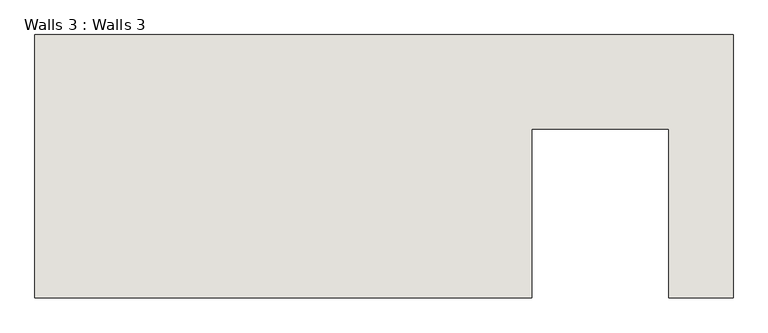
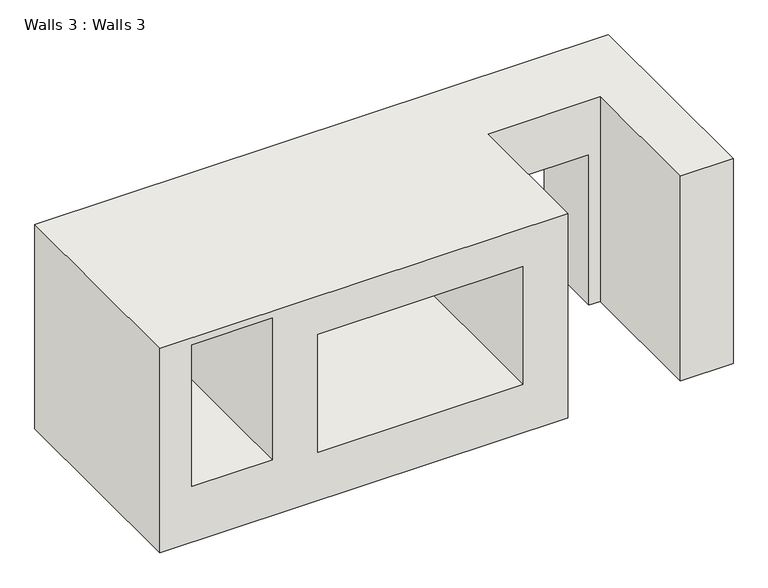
"""IFC4 building model written with IfcOpenShell, lengths in millimetres: wall geometry, Walls 3 : Walls 3."""

import ifcopenshell
import ifcopenshell.guid

model = None  # the IFC model being written
_history = None  # IfcOwnerHistory: only IFC2X3 demands one
_inside = {}  # id of a spatial element -> (the spatial element, [elements in it])
_under = {}  # id of a project, library or spatial element -> (it, [spatial elements below it])
_declared = {}  # id of a project -> (the project, [libraries it declares])
_typed = {}  # id of a type object -> (the type object, [elements of that type])
_made_of = {}  # id of a material, layer set ... -> (it, [elements and type objects made of it])


def new_model(schema):
    """Start an empty IFC model of exactly this schema.

    Asked for "IFC4X3", IfcOpenShell would pick the latest addendum, in which some entities
    have other attributes; the version numbers below select the first issue.
    IFC2X3 requires an IfcOwnerHistory on every rooted entity: one is made here for all.
    """
    global model, _history
    if schema == "IFC4X3":
        model = ifcopenshell.file(schema_version=(4, 3, 0, 0))
    else:
        model = ifcopenshell.file(schema=schema)
    _inside.clear()
    _under.clear()
    _declared.clear()
    _typed.clear()
    _made_of.clear()
    _history = None
    if model.schema == "IFC2X3":
        org = make("IfcOrganization", Name="unknown")
        user = make(
            "IfcPersonAndOrganization",
            ThePerson=make("IfcPerson", FamilyName="unknown"),
            TheOrganization=org,
        )
        app = make(
            "IfcApplication",
            ApplicationDeveloper=org,
            Version="unknown",
            ApplicationFullName="unknown",
            ApplicationIdentifier="unknown",
        )
        _history = make(
            "IfcOwnerHistory",
            OwningUser=user,
            OwningApplication=app,
            ChangeAction="ADDED",
            CreationDate=0,
        )
    return model


def make(cls, **values):
    """One entity of the class cls with the attributes given. An attribute that is None is left unset."""
    return model.create_entity(
        cls, **{name: value for name, value in values.items() if value is not None}
    )


def rooted(cls, **values):
    """An entity with a GlobalId (a new one), such as an element, a storey or a relation."""
    return make(cls, GlobalId=ifcopenshell.guid.new(), OwnerHistory=_history, **values)


def si_unit(unit_type, name, prefix=None):
    """IfcSIUnit, for example si_unit("LENGTHUNIT", "METRE", prefix="MILLI")."""
    return make("IfcSIUnit", UnitType=unit_type, Prefix=prefix, Name=name)


def assignment(units):
    """IfcUnitAssignment: the units of a project."""
    return None if units is None else make("IfcUnitAssignment", Units=units)


def point(xyz):
    """IfcCartesianPoint."""
    return None if xyz is None else make("IfcCartesianPoint", Coordinates=xyz)


def direction(xyz):
    """IfcDirection."""
    return None if xyz is None else make("IfcDirection", DirectionRatios=xyz)


def frame(location, z_axis=None, x_axis=None):
    """IfcAxis2Placement3D, a coordinate frame: its origin and axes. An axis left out is left unset."""
    return make(
        "IfcAxis2Placement3D",
        Location=point(location),
        Axis=direction(z_axis),
        RefDirection=direction(x_axis),
    )


def origin():
    """The frame at (0, 0, 0) with its axes left unset."""
    return frame((0.0, 0.0, 0.0))


def place(relative_to, where):
    """IfcLocalPlacement: puts the frame where relative to a parent placement (None: the world)."""
    return make(
        "IfcLocalPlacement", PlacementRelTo=relative_to, RelativePlacement=where
    )


def context(
    kind, dimensions, precision=None, world=None, true_north=None, identifier=None
):
    """IfcGeometricRepresentationContext, for example the 3D "Model" context."""
    return make(
        "IfcGeometricRepresentationContext",
        ContextIdentifier=identifier,
        ContextType=kind,
        CoordinateSpaceDimension=dimensions,
        Precision=precision,
        WorldCoordinateSystem=world,
        TrueNorth=true_north,
    )


def project(units=None, contexts=None):
    """IfcProject with its units and contexts."""
    return rooted(
        "IfcProject",
        Name="project",
        RepresentationContexts=contexts,
        UnitsInContext=assignment(units),
    )


def spatial(cls, under=None, at=None, **own):
    """A site, building, storey or space (cls), placed at a placement, below another one or the project."""
    s = rooted(cls, ObjectPlacement=at, **own)
    if under is not None:
        _under.setdefault(under.id(), (under, []))[1].append(s)
    return s


def faces_of(points, faces, orient=None, outer=None):
    """IfcFace entities. A face is a list of loops; a loop is a list of indices into points, from 0.

    orient and outer hold one flag for each loop. By default every Orientation is true, the
    first loop of a face is its IfcFaceOuterBound and the others are IfcFaceBound.
    """
    made = []
    for i, loops in enumerate(faces):
        bounds = []
        for j, loop in enumerate(loops):
            is_outer = j == 0 if outer is None else outer[i][j]
            bounds.append(
                make(
                    "IfcFaceOuterBound" if is_outer else "IfcFaceBound",
                    Bound=make("IfcPolyLoop", Polygon=[points[k] for k in loop]),
                    Orientation=True if orient is None else orient[i][j],
                )
            )
        made.append(make("IfcFace", Bounds=bounds))
    return made


def faceted_brep(points, faces, orient=None, outer=None, voids=None):
    """IfcFacetedBrep: a solid bounded by flat faces; with voids (closed shells), ...WithVoids."""
    shared = [point(p) for p in points]
    hull = make("IfcClosedShell", CfsFaces=faces_of(shared, faces, orient, outer))
    if voids is None:
        return make("IfcFacetedBrep", Outer=hull)
    return make(
        "IfcFacetedBrepWithVoids",
        Outer=hull,
        Voids=[
            make(cls, CfsFaces=faces_of(shared, fs, o, b)) for cls, fs, o, b in voids
        ],
    )


def shape(context_of_items, identifier, shape_type, items):
    """IfcShapeRepresentation: the items that make up one representation, for example the "Body"."""
    return make(
        "IfcShapeRepresentation",
        ContextOfItems=context_of_items,
        RepresentationIdentifier=identifier,
        RepresentationType=shape_type,
        Items=items,
    )


def source(mapping_origin, context_of_items, identifier, shape_type, items):
    """IfcRepresentationMap: a shape defined once, which mapped items show again and again."""
    return make(
        "IfcRepresentationMap",
        MappingOrigin=mapping_origin,
        MappedRepresentation=shape(context_of_items, identifier, shape_type, items),
    )


def transform(
    local_origin,
    x_axis=None,
    y_axis=None,
    z_axis=None,
    scale=None,
    scale2=None,
    scale3=None,
    uniform=True,
):
    """IfcCartesianTransformationOperator3D, or its non-uniform kind. x_axis, y_axis, z_axis: its Axis1, 2, 3."""
    if uniform:
        return make(
            "IfcCartesianTransformationOperator3D",
            Axis1=direction(x_axis),
            Axis2=direction(y_axis),
            LocalOrigin=point(local_origin),
            Scale=scale,
            Axis3=direction(z_axis),
        )
    return make(
        "IfcCartesianTransformationOperator3DnonUniform",
        Axis1=direction(x_axis),
        Axis2=direction(y_axis),
        LocalOrigin=point(local_origin),
        Scale=scale,
        Axis3=direction(z_axis),
        Scale2=scale2,
        Scale3=scale3,
    )


def mapped(mapping_source, mapping_target):
    """IfcMappedItem: shows the shape of a source again, moved by a transform."""
    return make(
        "IfcMappedItem", MappingSource=mapping_source, MappingTarget=mapping_target
    )


def made_of(thing, what):
    """Note that an element or type object is made of a material, layer set ...; save() writes the relation."""
    if what is not None:
        _made_of.setdefault(what.id(), (what, []))[1].append(thing)
    return thing


def element(
    cls,
    number,
    at=None,
    inside=None,
    cuts=None,
    type_object=None,
    material=None,
    context=None,
    identifier="Body",
    shape_type=None,
    held_by="IfcProductDefinitionShape",
    body=None,
    shapes=None,
    **own,
):
    """One element of the class cls, such as IfcWall. Its Tag is "e" and its number.

    at: its placement. inside: the storey or other place that contains it. cuts: it is an
    opening in that element (IfcRelVoidsElement). A single representation is given by context,
    identifier, shape_type and body (its items); several are given by shapes. held_by: the class
    of the entity that holds the representations. save() writes the other relations.
    """
    e = rooted(cls, Tag="e%d" % number, ObjectPlacement=at, **own)
    if body is not None:
        shapes = [shape(context, identifier, shape_type, body)]
    if shapes is not None:
        e.Representation = make(held_by, Representations=shapes)
    if inside is not None:
        _inside.setdefault(inside.id(), (inside, []))[1].append(e)
    if cuts is not None:
        rooted(
            "IfcRelVoidsElement", RelatingBuildingElement=cuts, RelatedOpeningElement=e
        )
    if type_object is not None:
        _typed.setdefault(type_object.id(), (type_object, []))[1].append(e)
    return made_of(e, material)


def aggregate(whole, parts):
    """IfcRelAggregates: a whole, such as a stair, and the parts it consists of."""
    return rooted("IfcRelAggregates", RelatingObject=whole, RelatedObjects=parts)


def save(model, path):
    """Write the relations noted so far, then the file.

    IfcRelAggregates (storeys below a building ...), IfcRelContainedInSpatialStructure (elements
    in a storey), IfcRelDefinesByType, IfcRelAssociatesMaterial and IfcRelDeclares: one each for
    every whole, place, type object, material and project.
    """
    for whole, parts in _under.values():
        aggregate(whole, parts)
    for where, things in _inside.values():
        rooted(
            "IfcRelContainedInSpatialStructure",
            RelatedElements=things,
            RelatingStructure=where,
        )
    for kind, things in _typed.values():
        rooted("IfcRelDefinesByType", RelatedObjects=things, RelatingType=kind)
    for what, things in _made_of.values():
        rooted("IfcRelAssociatesMaterial", RelatedObjects=things, RelatingMaterial=what)
    for by, libraries in _declared.values():
        rooted("IfcRelDeclares", RelatingContext=by, RelatedDefinitions=libraries)
    model.write(path)


def walls_3_walls_3_bad49033(model_context):
    return source(origin(), model_context, "Body", "Brep", [
        faceted_brep([(-3468.5171482, -3849.4449025, 6000.0), (-3468.5171482, -849.4449025, 6000.0), (-11418.5171482, -849.4449025, 6000.0), (-11418.5171482, -3849.4449025, 6000.0), (-5763.3274035, -3849.4449025, 6000.0), (-5763.3274035, -1925.6449025, 6000.0), (-4200.0, -1925.6449025, 6000.0), (-4200.0, -3849.4449025, 6000.0), (-11418.5171482, -3849.4449025, 3000.0), (-11418.5171482, -849.4449025, 3000.0), (-5424.9221962, -849.4449025, 3000.0), (-5424.9221962, -1925.6449025, 3000.0), (-5763.3274035, -1925.6449025, 3000.0), (-5763.3274035, -3849.4449025, 3000.0), (-3468.5171482, -849.4449025, 3000.0), (-3468.5171482, -3849.4449025, 3000.0), (-4200.0, -3849.4449025, 3000.0), (-4200.0, -1925.6449025, 3000.0), (-4358.1221962, -1925.6449025, 3000.0), (-4358.1221962, -849.4449025, 3000.0), (-4358.1221962, -849.4449025, 5209.8), (-5424.9221962, -849.4449025, 5209.8), (-9226.9055122, -849.4449025, 5440.0), (-9226.9055122, -849.4449025, 3712.8), (-6382.1055122, -849.4449025, 3712.8), (-6382.1055122, -849.4449025, 5440.0), (-9226.9055122, -3849.4449025, 3712.8), (-9226.9055122, -3849.4449025, 5440.0), (-6382.1055122, -3849.4449025, 5440.0), (-6382.1055122, -3849.4449025, 3712.8), (-9860.1539512, -3849.4449025, 5900.0), (-9860.1539512, -3849.4449025, 3823.9), (-10977.8516447, -3849.4449025, 3823.9), (-10977.8516447, -3849.4449025, 5900.0), (-5424.9221962, -1925.6449025, 5209.8), (-4358.1221962, -1925.6449025, 5209.8), (-9860.1539512, -1463.7449025, 5900.0), (-10977.8516447, -1463.7449025, 5900.0), (-10977.8516447, -1463.7449025, 3823.9), (-9860.1539512, -1463.7449025, 3823.9)], [[[0, 1, 2, 3, 4, 5, 6, 7]], [[8, 9, 10, 11, 12, 13]], [[14, 15, 16, 17, 18, 19]], [[1, 0, 15, 14]], [[2, 1, 14, 19, 20, 21, 10, 9], [22, 23, 24, 25]], [[3, 2, 9, 8]], [[15, 0, 7, 16]], [[3, 8, 13, 4], [26, 27, 28, 29], [30, 31, 32, 33]], [[6, 5, 12, 11, 34, 35, 18, 17]], [[7, 6, 17, 16]], [[5, 4, 13, 12]], [[22, 27, 26, 23]], [[24, 29, 28, 25]], [[27, 22, 25, 28]], [[29, 24, 23, 26]], [[36, 37, 38, 39]], [[31, 30, 36, 39]], [[32, 31, 39, 38]], [[33, 32, 38, 37]], [[30, 33, 37, 36]], [[21, 34, 11, 10]], [[34, 21, 20, 35]], [[35, 20, 19, 18]]]),
    ])


if __name__ == "__main__":
    model = new_model("IFC4")
    model_context = context("Model", 3, world=origin())
    ifc_project = project(units=[si_unit("LENGTHUNIT", "METRE", prefix="MILLI")], contexts=[model_context])
    site = spatial("IfcSite", under=ifc_project)
    building = spatial("IfcBuilding", under=site)
    placement = place(None, origin())
    walls_3_walls_3_shape = walls_3_walls_3_bad49033(model_context)
    element("IfcWall", 1, ObjectType="Walls 3 : Walls 3", at=placement, inside=building, context=model_context, shape_type="MappedRepresentation", body=[
        mapped(walls_3_walls_3_shape, transform((0.0, 0.0, 0.0), x_axis=(1.0, 0.0, 0.0), y_axis=(0.0, 1.0, 0.0), z_axis=(0.0, 0.0, 1.0))),
    ])
    save(model, "model.ifc")
